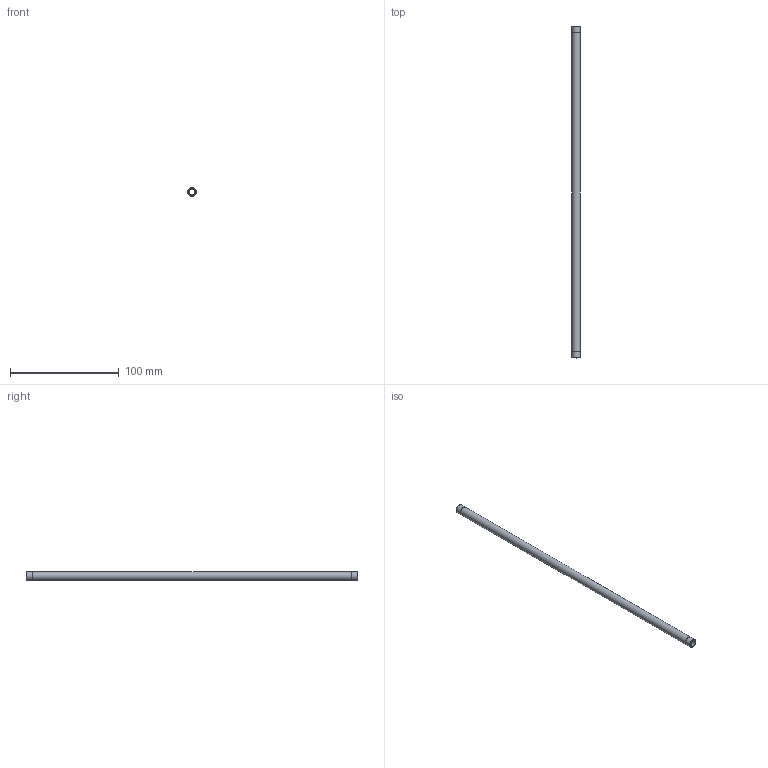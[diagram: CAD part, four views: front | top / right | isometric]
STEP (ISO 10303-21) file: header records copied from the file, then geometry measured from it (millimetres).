
FILE_DESCRIPTION(/* description */ (''),/* implementation_level */ '2;1');
FILE_NAME(/* name */ 'C:/Users/drich/Desktop/SSPN16-12 v1.step',/* time_stamp */ '2020-01-04T13:24:12-06:00',/* author */ (''),/* organization */ (''),/* preprocessor_version */ 'ST-DEVELOPER v18',/* originating_system */ 'Autodesk Translation Framework v8.12.0.6',/* authorisation */ '');
FILE_SCHEMA (('AUTOMOTIVE_DESIGN { 1 0 10303 214 3 1 1 }'));
Length unit declared in the file: inch
Products named in the file (1): SSPN16-12
Bounding box: 7.92 x 304.8 x 7.92 mm (x, y, z)
Volume: 8266.5 mm3; surface area: 12700.5 mm2
Topology: 1 solids, 1 shells, 10 faces, 24 edges, 18 vertices
Faces by surface type: cylinder 4, plane 4, cone 2
Full cylindrical faces by diameter (mm): 5.309 x1, 7.874 x2, 7.925 x1
Entity records: 353 total; most frequent: DIRECTION 64, CARTESIAN_POINT 53, ORIENTED_EDGE 48, AXIS2_PLACEMENT_3D 29, EDGE_CURVE 24, CIRCLE 18, VERTEX_POINT 18, EDGE_LOOP 14
